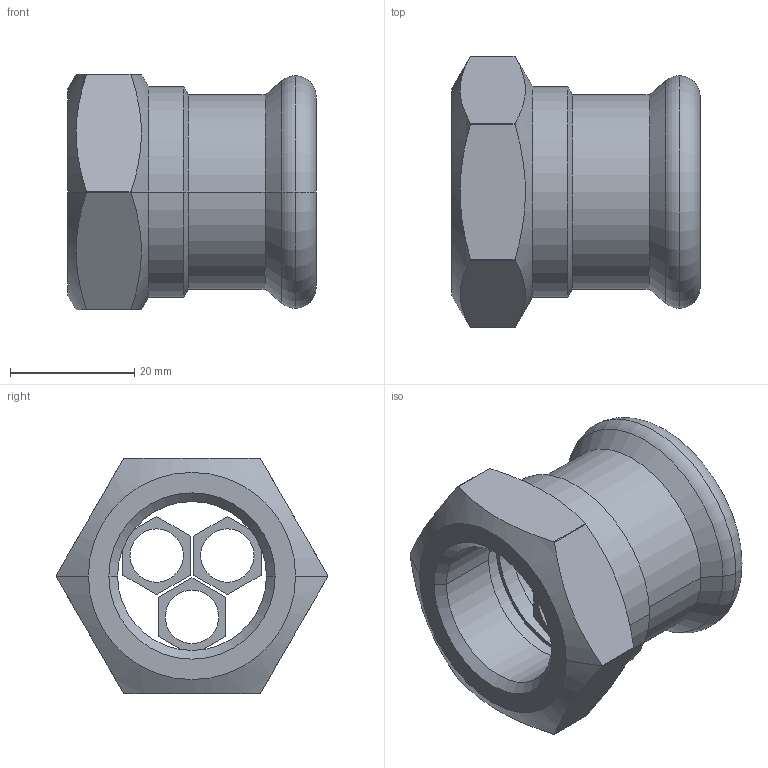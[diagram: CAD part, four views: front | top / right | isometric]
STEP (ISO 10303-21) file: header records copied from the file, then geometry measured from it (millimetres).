
FILE_DESCRIPTION(('OneSpaceDesigner STEP Export'),'2;1');
FILE_NAME('R2702 28xRp3-4.stp','2010-06-08T14:32:02',(''),(''),'OneSpace Designer STEP processor for AP214 (Solid Model)','OneSpace Modeling 15.00A 14-Mar-2007 (C) CoCreate Software GmbH','');
FILE_SCHEMA(('AUTOMOTIVE_DESIGN { 1 0 10303 214 1 1 1 1 }'));
Length unit declared in the file: millimetre
Products named in the file (2): R2702_28xRp3-4
Assembly tree (1 placements, depth 2):
  R2702_28xRp3-4
    R2702_28xRp3-4
Bounding box: 40 x 43.79 x 38 mm (x, y, z)
Volume: 16550 mm3; surface area: 10066.4 mm2
Topology: 1 solids, 1 shells, 88 faces, 215 edges, 134 vertices
Faces by surface type: plane 37, cone 24, cylinder 23, torus 4
Entity records: 3303 total; most frequent: CARTESIAN_POINT 1426, ORIENTED_EDGE 430, DIRECTION 305, EDGE_CURVE 215, VERTEX_POINT 134, VECTOR 107, LINE 107, EDGE_LOOP 101
